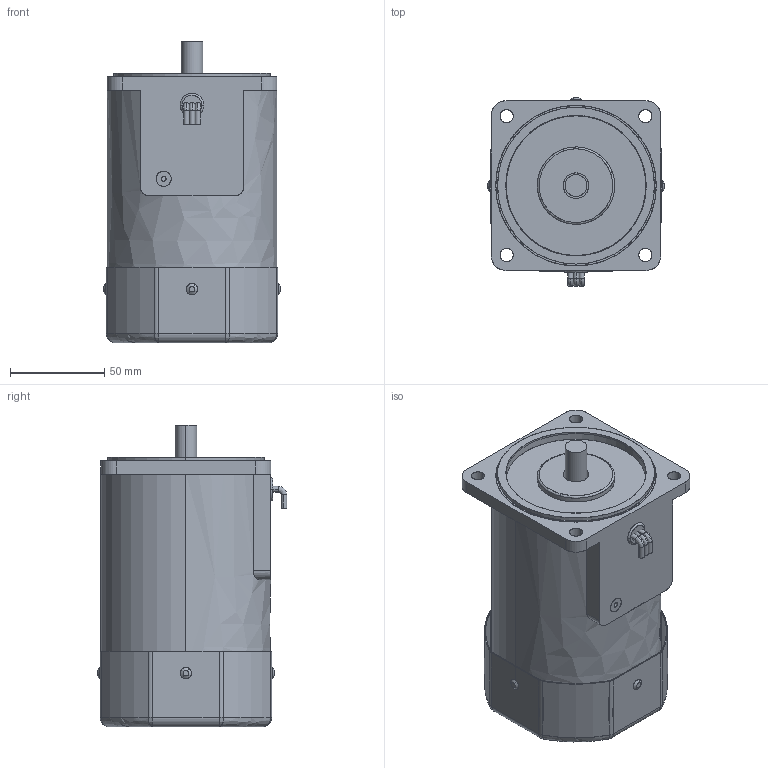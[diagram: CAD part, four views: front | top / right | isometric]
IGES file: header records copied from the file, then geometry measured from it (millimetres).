
Start section: SolidWorks IGES file using analytic representation for surfaces
Bounding box: 94 x 100.5 x 160 mm (x, y, z)
Surface area: 136200.5 mm2 (no closed solid volume)
Topology: 0 solids, 0 shells, 210 faces, 3788 edges, 3772 vertices
Faces by surface type: revolution 108, bspline 102
